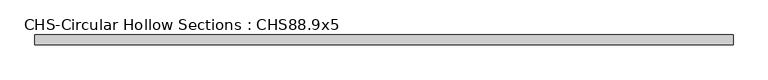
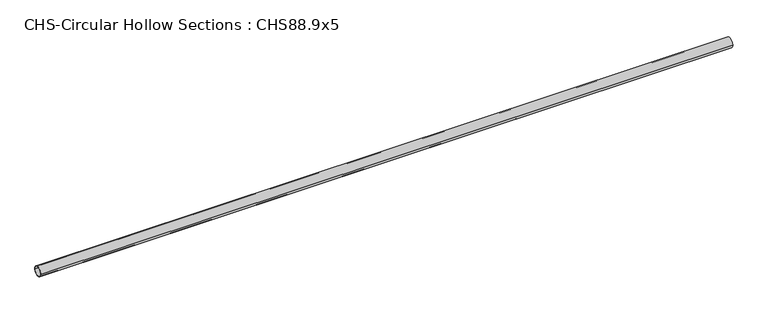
"""IFC4 building model written with IfcOpenShell, lengths in millimetres: beam geometry, CHS-Circular Hollow Sections : CHS88.9x5."""

from ifc_helpers import new_model, si_unit, point, frame, origin, origin_2d, place, context, project, spatial, circle_curve, trimmed, segment, composite_curve, outline, extrude, source, transform, mapped, element, save


def chs_circular_hollow_sections_chs88_9x5_28c71187(model_context):
    return source(origin(), model_context, "Body", "SweptSolid", [
        extrude(outline(composite_curve([segment(trimmed(circle_curve(origin_2d(), 44.45), [point((-44.45, 0.0))], [point((44.45, 0.0))], False, "CARTESIAN"), True, "CONTINUOUS"), segment(trimmed(circle_curve(origin_2d(), 44.45), [point((44.45, 0.0))], [point((-44.45, 0.0))], False, "CARTESIAN"), True, "CONTINUOUS")], self_intersect=False), holes=[composite_curve([segment(trimmed(circle_curve(origin_2d(), 39.45), [point((39.45, 0.0))], [point((-39.45, 0.0))], True, "CARTESIAN"), True, "CONTINUOUS"), segment(trimmed(circle_curve(origin_2d(), 39.45), [point((-39.45, 0.0))], [point((39.45, 0.0))], True, "CARTESIAN"), True, "CONTINUOUS")], self_intersect=False)]), frame((-2958.0, 0.0, 0.0), z_axis=(1.0, 0.0, 0.0), x_axis=(0.0, 1.0, 0.0)), (0.0, 0.0, 1.0), 6217.0),
    ])


if __name__ == "__main__":
    model = new_model("IFC4")
    model_context = context("Model", 3, world=origin())
    ifc_project = project(units=[si_unit("LENGTHUNIT", "METRE", prefix="MILLI")], contexts=[model_context])
    site = spatial("IfcSite", under=ifc_project)
    building = spatial("IfcBuilding", under=site)
    placement = place(None, origin())
    chs_circular_hollow_sections_chs88_9x5_shape = chs_circular_hollow_sections_chs88_9x5_28c71187(model_context)
    element("IfcBeam", 1, ObjectType="CHS-Circular Hollow Sections : CHS88.9x5", at=placement, inside=building, context=model_context, shape_type="MappedRepresentation", body=[
        mapped(chs_circular_hollow_sections_chs88_9x5_shape, transform((0.0, 0.0, 0.0), x_axis=(1.0, 0.0, 0.0), y_axis=(0.0, 1.0, 0.0), z_axis=(0.0, 0.0, 1.0))),
    ])
    save(model, "model.ifc")
